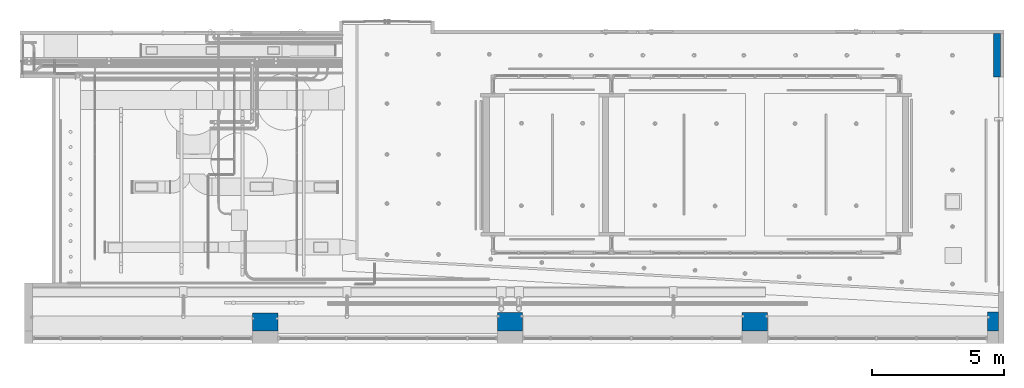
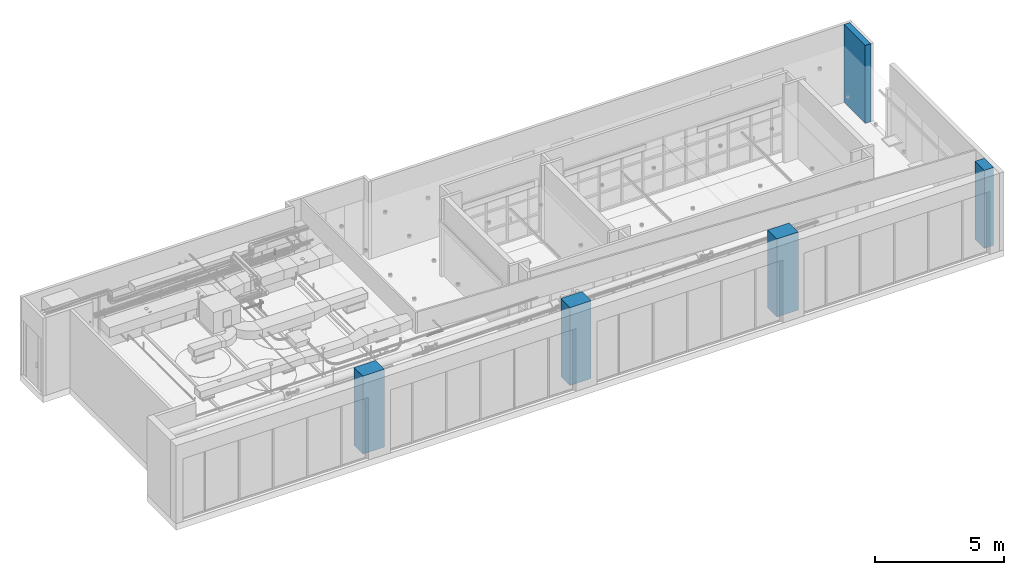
# One storey, part 1 of 108: 5 columns.
"""IFC4 building model written with IfcOpenShell, lengths in feet."""

from ifc_helpers import new_model, entity, si_unit, converted_unit, derived_unit, direction, frame, frame_2d, origin, place, context, subcontext, project, spatial, rectangle, extrude, source, transform, mapped, material, material_profile, profile_set, profile_usage, type_object, type_shapes, element, save


model = new_model("IFC4")

# Units and contexts
model_context = context("Model", 3, precision=0.0001, world=origin(), true_north=direction((6.12303176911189e-17, 1.0)))
body_context = subcontext(model_context, "Body", "Model", "MODEL_VIEW")
ifc_project = project(units=[converted_unit("LENGTHUNIT", "FOOT", entity("IfcRatioMeasure", 0.3048), si_unit("LENGTHUNIT", "METRE"), dimensions=[1, 0, 0, 0, 0, 0, 0]), converted_unit("AREAUNIT", "SQUARE FOOT", entity("IfcRatioMeasure", 0.09290304), si_unit("AREAUNIT", "SQUARE_METRE"), dimensions=[2, 0, 0, 0, 0, 0, 0]), converted_unit("VOLUMEUNIT", "CUBIC FOOT", entity("IfcRatioMeasure", 0.028316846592), si_unit("VOLUMEUNIT", "CUBIC_METRE"), dimensions=[3, 0, 0, 0, 0, 0, 0]), converted_unit("PLANEANGLEUNIT", "DEGREE", entity("IfcRatioMeasure", 0.0174532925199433), si_unit("PLANEANGLEUNIT", "RADIAN"), dimensions=[0, 0, 0, 0, 0, 0, 0]), si_unit("MASSUNIT", "GRAM", prefix="KILO"), derived_unit("MASSDENSITYUNIT", [(si_unit("MASSUNIT", "GRAM", prefix="KILO"), 1), (si_unit("LENGTHUNIT", "METRE"), -3)]), si_unit("TIMEUNIT", "SECOND"), si_unit("FREQUENCYUNIT", "HERTZ"), si_unit("THERMODYNAMICTEMPERATUREUNIT", "DEGREE_CELSIUS"), derived_unit("THERMALTRANSMITTANCEUNIT", [(si_unit("MASSUNIT", "GRAM", prefix="KILO"), 1), (si_unit("THERMODYNAMICTEMPERATUREUNIT", "KELVIN"), -1), (si_unit("TIMEUNIT", "SECOND"), -3)]), derived_unit("VOLUMETRICFLOWRATEUNIT", [(si_unit("LENGTHUNIT", "METRE"), 3), (si_unit("TIMEUNIT", "SECOND"), -1)]), si_unit("ELECTRICCURRENTUNIT", "AMPERE"), si_unit("ELECTRICVOLTAGEUNIT", "VOLT"), si_unit("POWERUNIT", "WATT"), si_unit("FORCEUNIT", "NEWTON"), si_unit("ILLUMINANCEUNIT", "LUX"), si_unit("LUMINOUSFLUXUNIT", "LUMEN"), si_unit("LUMINOUSINTENSITYUNIT", "CANDELA"), derived_unit("USERDEFINED", [(si_unit("MASSUNIT", "GRAM", prefix="KILO"), -1), (si_unit("LENGTHUNIT", "METRE"), -2), (si_unit("TIMEUNIT", "SECOND"), 3), (si_unit("LUMINOUSFLUXUNIT", "LUMEN"), 1)]), derived_unit("LINEARVELOCITYUNIT", [(si_unit("LENGTHUNIT", "METRE"), 1), (si_unit("TIMEUNIT", "SECOND"), -1)]), si_unit("PRESSUREUNIT", "PASCAL"), derived_unit("USERDEFINED", [(si_unit("LENGTHUNIT", "METRE"), -2), (si_unit("MASSUNIT", "GRAM", prefix="KILO"), 1), (si_unit("TIMEUNIT", "SECOND"), -2)])], contexts=[model_context])

# Site, building, storey
site_placement = place(None, origin())
site = spatial("IfcSite", under=ifc_project, at=site_placement, Name="Default", CompositionType="ELEMENT")
building_placement = place(site_placement, origin())
building = spatial("IfcBuilding", under=site, at=building_placement, CompositionType="ELEMENT")
storey_placement = place(building_placement, frame((0.0, 0.0, 168.0)))
storey = spatial("IfcBuildingStorey", under=building, at=storey_placement, Name="Level 15", CompositionType="ELEMENT", Elevation=168.0)

# Columns
ifc_material = material(Name="Default Wall", Category="Miscellaneous")
ifc_material_profile = material_profile(ifc_material, rectangle(XDim=2.24481560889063, YDim=3.16530513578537, at=frame_2d((3.5527136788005e-15, 1.77635683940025e-15), x_axis=(1.0, 0.0))), Name="Generic")
ifc_profile_set = profile_set([ifc_material_profile], Name="Generic")
ifc_profile_usage_1 = profile_usage(ifc_profile_set)
column_type_1 = type_object("IfcColumnType", Name="Generic", PredefinedType="COLUMN", material=ifc_profile_set)
shared_shape_1 = source(origin(), body_context, "Body", "SweptSolid", [
    extrude(rectangle(XDim=2.24481560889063, YDim=3.16530513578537, at=frame_2d((3.5527136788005e-15, 1.77635683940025e-15), x_axis=(1.0, 0.0))), frame((-29.7138541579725, -20.4766945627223, 168.0), z_axis=(0.0, 0.0, 1.0), x_axis=(0.0, -1.0, 0.0)), (0.0, 0.0, 1.0), 12.0833333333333),
])
type_shapes(column_type_1, [shared_shape_1])
column_1_placement = place(storey_placement, frame((0.0, 0.0, -168.0)))
element("IfcColumn", 1, at=column_1_placement, inside=storey, type_object=column_type_1, material=ifc_profile_usage_1, Name="I-Rectangular:Generic", ObjectType="I-Rectangular:Generic", PredefinedType="NOTDEFINED", context=body_context, shape_type="MappedRepresentation", body=[
    mapped(shared_shape_1, transform((0.0, 0.0, 0.0), scale=1.0)),
])
ifc_profile_usage_2 = profile_usage(ifc_profile_set)
column_type_2 = type_object("IfcColumnType", Name="Generic", PredefinedType="COLUMN", material=ifc_profile_set)
shared_shape_2 = source(origin(), body_context, "Body", "SweptSolid", [
    extrude(rectangle(XDim=2.33707731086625, YDim=3.10422437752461, at=frame_2d((3.5527136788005e-15, 1.99840144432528e-15), x_axis=(1.0, 0.0))), frame((0.650019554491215, -20.4305637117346, 168.0), z_axis=(0.0, 0.0, 1.0), x_axis=(0.0, -1.0, 0.0)), (0.0, 0.0, 1.0), 12.0833333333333),
])
type_shapes(column_type_2, [shared_shape_2])
column_2_placement = place(storey_placement, frame((0.0, 0.0, -168.0)))
element("IfcColumn", 2, at=column_2_placement, inside=storey, type_object=column_type_2, material=ifc_profile_usage_2, Name="I-Rectangular:Generic", ObjectType="I-Rectangular:Generic", PredefinedType="NOTDEFINED", context=body_context, shape_type="MappedRepresentation", body=[
    mapped(shared_shape_2, transform((0.0, 0.0, 0.0), scale=1.0)),
])
ifc_profile_usage_3 = profile_usage(ifc_profile_set)
column_type_3 = type_object("IfcColumnType", Name="Generic", PredefinedType="COLUMN", material=ifc_profile_set)
shared_shape_3 = source(origin(), body_context, "Body", "SweptSolid", [
    extrude(rectangle(XDim=2.34271243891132, YDim=3.14062944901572, at=frame_2d((5.32907051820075e-15, 1.77635683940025e-15), x_axis=(1.0, 0.0))), frame((31.0015554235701, -20.4277461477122, 168.0), z_axis=(0.0, 0.0, 1.0), x_axis=(0.0, -1.0, 0.0)), (0.0, 0.0, 1.0), 12.0833333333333),
])
type_shapes(column_type_3, [shared_shape_3])
column_3_placement = place(storey_placement, frame((0.0, 0.0, -168.0)))
element("IfcColumn", 3, at=column_3_placement, inside=storey, type_object=column_type_3, material=ifc_profile_usage_3, Name="I-Rectangular:Generic", ObjectType="I-Rectangular:Generic", PredefinedType="NOTDEFINED", context=body_context, shape_type="MappedRepresentation", body=[
    mapped(shared_shape_3, transform((0.0, 0.0, 0.0), scale=1.0)),
])
ifc_profile_usage_4 = profile_usage(ifc_profile_set)
column_type_4 = type_object("IfcColumnType", Name="Generic", PredefinedType="COLUMN", material=ifc_profile_set)
shared_shape_4 = source(origin(), body_context, "Body", "SweptSolid", [
    extrude(rectangle(XDim=2.35126207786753, YDim=1.35515063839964, at=frame_2d((3.5527136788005e-15, -3.5527136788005e-15), x_axis=(1.0, 0.0))), frame((60.5353790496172, -20.4234713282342, 168.0), z_axis=(0.0, 0.0, 1.0), x_axis=(0.0, -1.0, 0.0)), (0.0, 0.0, 1.0), 12.0833333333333),
])
type_shapes(column_type_4, [shared_shape_4])
column_4_placement = place(storey_placement, frame((0.0, 0.0, -168.0)))
element("IfcColumn", 4, at=column_4_placement, inside=storey, type_object=column_type_4, material=ifc_profile_usage_4, Name="I-Rectangular:Generic", ObjectType="I-Rectangular:Generic", PredefinedType="NOTDEFINED", context=body_context, shape_type="MappedRepresentation", body=[
    mapped(shared_shape_4, transform((0.0, 0.0, 0.0), scale=1.0)),
])
ifc_profile_usage_5 = profile_usage(ifc_profile_set)
column_type_5 = type_object("IfcColumnType", Name="Generic", PredefinedType="COLUMN", material=ifc_profile_set)
shared_shape_5 = source(origin(), body_context, "Body", "SweptSolid", [
    extrude(rectangle(XDim=5.38888076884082, YDim=0.833962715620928, at=frame_2d((-1.77635683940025e-15, 0.0), x_axis=(1.0, 0.0))), frame((61.0043063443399, 12.6229598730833, 168.0), z_axis=(0.0, 0.0, 1.0), x_axis=(0.0, -1.0, 0.0)), (0.0, 0.0, 1.0), 12.0833333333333),
])
type_shapes(column_type_5, [shared_shape_5])
column_5_placement = place(storey_placement, frame((0.0, 0.0, -168.0)))
element("IfcColumn", 5, at=column_5_placement, inside=storey, type_object=column_type_5, material=ifc_profile_usage_5, Name="I-Rectangular:Generic", ObjectType="I-Rectangular:Generic", PredefinedType="NOTDEFINED", context=body_context, shape_type="MappedRepresentation", body=[
    mapped(shared_shape_5, transform((0.0, 0.0, 0.0), scale=1.0)),
])

save(model, "model.ifc")
